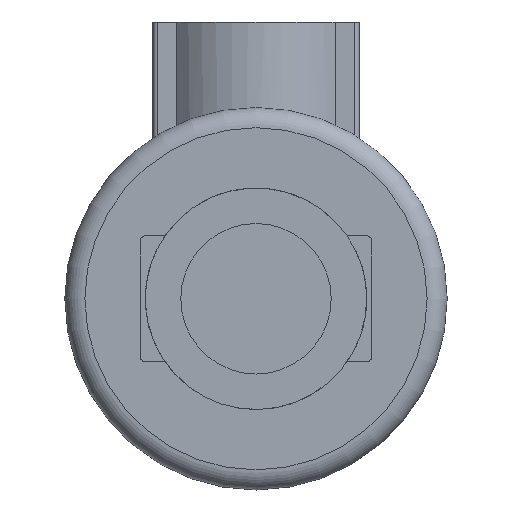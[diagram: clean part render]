
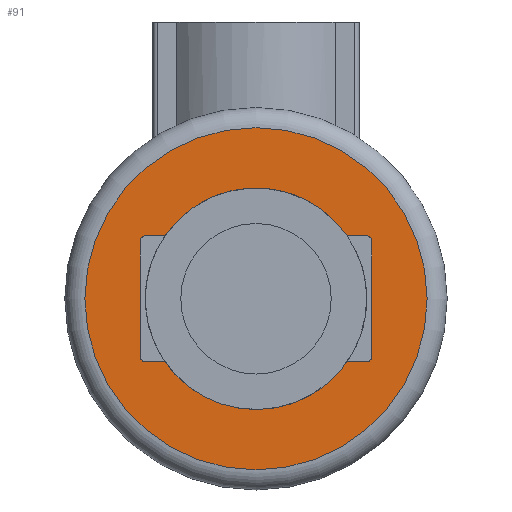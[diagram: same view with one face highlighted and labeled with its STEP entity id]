
A CAD part, front view. The second image highlights one B-rep face of the part: STEP entity #91.
In plain terms, the highlighted planar face has unit normal (0, -1, 0).
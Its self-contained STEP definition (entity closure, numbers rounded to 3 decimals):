
#91 = ADVANCED_FACE( '', ( #230, #231 ), #232, .F. );
#230 = FACE_BOUND( '', #428, .T. );
#231 = FACE_OUTER_BOUND( '', #429, .T. );
#232 = PLANE( '', #430 );
#428 = EDGE_LOOP( '', ( #640, #641, #642, #643, #644, #645, #646, #647, #648, #649, #650, #651 ) );
#429 = EDGE_LOOP( '', ( #652 ) );
#430 = AXIS2_PLACEMENT_3D( '', #653, #654, #655 );
#640 = ORIENTED_EDGE( '', *, *, #1148, .T. );
#641 = ORIENTED_EDGE( '', *, *, #1149, .T. );
#642 = ORIENTED_EDGE( '', *, *, #1150, .T. );
#643 = ORIENTED_EDGE( '', *, *, #1151, .T. );
#644 = ORIENTED_EDGE( '', *, *, #1152, .T. );
#645 = ORIENTED_EDGE( '', *, *, #1153, .T. );
#646 = ORIENTED_EDGE( '', *, *, #1154, .T. );
#647 = ORIENTED_EDGE( '', *, *, #1133, .T. );
#648 = ORIENTED_EDGE( '', *, *, #1155, .T. );
#649 = ORIENTED_EDGE( '', *, *, #1143, .T. );
#650 = ORIENTED_EDGE( '', *, *, #1156, .T. );
#651 = ORIENTED_EDGE( '', *, *, #1157, .T. );
#652 = ORIENTED_EDGE( '', *, *, #1158, .T. );
#653 = CARTESIAN_POINT( '', ( 17., 0., 0. ) );
#654 = DIRECTION( '', ( 0., 1., 0. ) );
#655 = DIRECTION( '', ( 0., 0., 1. ) );
#1133 = EDGE_CURVE( '', #1338, #1339, #1340, .T. );
#1143 = EDGE_CURVE( '', #1356, #1357, #1358, .T. );
#1148 = EDGE_CURVE( '', #1365, #1366, #1367, .T. );
#1149 = EDGE_CURVE( '', #1366, #1368, #1369, .T. );
#1150 = EDGE_CURVE( '', #1368, #1370, #1371, .T. );
#1151 = EDGE_CURVE( '', #1370, #1372, #1373, .T. );
#1152 = EDGE_CURVE( '', #1372, #1374, #1375, .T. );
#1153 = EDGE_CURVE( '', #1374, #1376, #1377, .T. );
#1154 = EDGE_CURVE( '', #1376, #1338, #1378, .T. );
#1155 = EDGE_CURVE( '', #1339, #1356, #1379, .T. );
#1156 = EDGE_CURVE( '', #1357, #1380, #1381, .T. );
#1157 = EDGE_CURVE( '', #1380, #1365, #1382, .T. );
#1158 = EDGE_CURVE( '', #1383, #1383, #1384, .T. );
#1338 = VERTEX_POINT( '', #1642 );
#1339 = VERTEX_POINT( '', #1643 );
#1340 = LINE( '', #1644, #1645 );
#1356 = VERTEX_POINT( '', #1673 );
#1357 = VERTEX_POINT( '', #1674 );
#1358 = LINE( '', #1675, #1676 );
#1365 = VERTEX_POINT( '', #1686 );
#1366 = VERTEX_POINT( '', #1687 );
#1367 = CIRCLE( '', #1688, 0.5 );
#1368 = VERTEX_POINT( '', #1689 );
#1369 = LINE( '', #1690, #1691 );
#1370 = VERTEX_POINT( '', #1692 );
#1371 = CIRCLE( '', #1693, 0.5 );
#1372 = VERTEX_POINT( '', #1694 );
#1373 = LINE( '', #1695, #1696 );
#1374 = VERTEX_POINT( '', #1697 );
#1375 = CIRCLE( '', #1698, 11. );
#1376 = VERTEX_POINT( '', #1699 );
#1377 = LINE( '', #1700, #1701 );
#1378 = CIRCLE( '', #1702, 0.5 );
#1379 = CIRCLE( '', #1703, 0.5 );
#1380 = VERTEX_POINT( '', #1704 );
#1381 = CIRCLE( '', #1705, 11. );
#1382 = LINE( '', #1706, #1707 );
#1383 = VERTEX_POINT( '', #1708 );
#1384 = CIRCLE( '', #1709, 17. );
#1642 = CARTESIAN_POINT( '', ( -11.5, 0., -5.75 ) );
#1643 = CARTESIAN_POINT( '', ( -11.5, 0., 5.75 ) );
#1644 = CARTESIAN_POINT( '', ( -11.5, 0., -5.75 ) );
#1645 = VECTOR( '', #2110, 1000. );
#1673 = CARTESIAN_POINT( '', ( -11., 0., 6.25 ) );
#1674 = CARTESIAN_POINT( '', ( -9.052, 0., 6.25 ) );
#1675 = CARTESIAN_POINT( '', ( -11., 0., 6.25 ) );
#1676 = VECTOR( '', #2119, 1000. );
#1686 = CARTESIAN_POINT( '', ( 11., 0., 6.25 ) );
#1687 = CARTESIAN_POINT( '', ( 11.5, 0., 5.75 ) );
#1688 = AXIS2_PLACEMENT_3D( '', #2123, #2124, #2125 );
#1689 = CARTESIAN_POINT( '', ( 11.5, 0., -5.75 ) );
#1690 = CARTESIAN_POINT( '', ( 11.5, 0., 5.75 ) );
#1691 = VECTOR( '', #2126, 1000. );
#1692 = CARTESIAN_POINT( '', ( 11., 0., -6.25 ) );
#1693 = AXIS2_PLACEMENT_3D( '', #2127, #2128, #2129 );
#1694 = CARTESIAN_POINT( '', ( 9.052, 0., -6.25 ) );
#1695 = CARTESIAN_POINT( '', ( 11., 0., -6.25 ) );
#1696 = VECTOR( '', #2130, 1000. );
#1697 = CARTESIAN_POINT( '', ( -9.052, 0., -6.25 ) );
#1698 = AXIS2_PLACEMENT_3D( '', #2131, #2132, #2133 );
#1699 = CARTESIAN_POINT( '', ( -11., 0., -6.25 ) );
#1700 = CARTESIAN_POINT( '', ( -9.052, 0., -6.25 ) );
#1701 = VECTOR( '', #2134, 1000. );
#1702 = AXIS2_PLACEMENT_3D( '', #2135, #2136, #2137 );
#1703 = AXIS2_PLACEMENT_3D( '', #2138, #2139, #2140 );
#1704 = CARTESIAN_POINT( '', ( 9.052, 0., 6.25 ) );
#1705 = AXIS2_PLACEMENT_3D( '', #2141, #2142, #2143 );
#1706 = CARTESIAN_POINT( '', ( 9.052, 0., 6.25 ) );
#1707 = VECTOR( '', #2144, 1000. );
#1708 = CARTESIAN_POINT( '', ( 0., 0., -17. ) );
#1709 = AXIS2_PLACEMENT_3D( '', #2145, #2146, #2147 );
#2110 = DIRECTION( '', ( 0., 0., 1. ) );
#2119 = DIRECTION( '', ( 1., 0., 0. ) );
#2123 = CARTESIAN_POINT( '', ( 11., 0., 5.75 ) );
#2124 = DIRECTION( '', ( 0., 1., 0. ) );
#2125 = DIRECTION( '', ( 1., 0., 0. ) );
#2126 = DIRECTION( '', ( 0., 0., -1. ) );
#2127 = CARTESIAN_POINT( '', ( 11., 0., -5.75 ) );
#2128 = DIRECTION( '', ( 0., 1., 0. ) );
#2129 = DIRECTION( '', ( 1., 0., 0. ) );
#2130 = DIRECTION( '', ( -1., 0., 0. ) );
#2131 = CARTESIAN_POINT( '', ( 0., 0., 0. ) );
#2132 = DIRECTION( '', ( 0., 1., 0. ) );
#2133 = DIRECTION( '', ( 1., 0., 0. ) );
#2134 = DIRECTION( '', ( -1., 0., 0. ) );
#2135 = CARTESIAN_POINT( '', ( -11., 0., -5.75 ) );
#2136 = DIRECTION( '', ( 0., 1., 0. ) );
#2137 = DIRECTION( '', ( 1., 0., 0. ) );
#2138 = CARTESIAN_POINT( '', ( -11., 0., 5.75 ) );
#2139 = DIRECTION( '', ( 0., 1., 0. ) );
#2140 = DIRECTION( '', ( 1., 0., 0. ) );
#2141 = CARTESIAN_POINT( '', ( 0., 0., 0. ) );
#2142 = DIRECTION( '', ( 0., 1., 0. ) );
#2143 = DIRECTION( '', ( 1., 0., 0. ) );
#2144 = DIRECTION( '', ( 1., 0., 0. ) );
#2145 = CARTESIAN_POINT( '', ( 0., 0., 0. ) );
#2146 = DIRECTION( '', ( 0., -1., 0. ) );
#2147 = DIRECTION( '', ( 0., 0., -1. ) );
